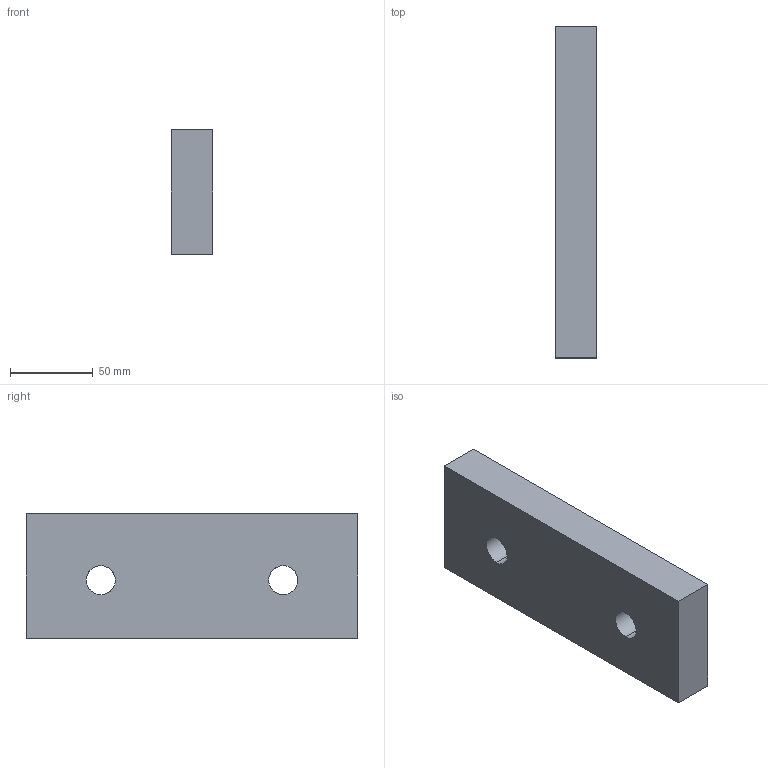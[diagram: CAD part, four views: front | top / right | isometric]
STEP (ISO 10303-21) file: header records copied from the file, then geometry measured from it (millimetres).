
FILE_DESCRIPTION(('CATIA V5 STEP Exchange'),'2;1');
FILE_NAME('C:\Users\Raffaele\Desktop\3D X SITO CF\A612\A611-075-200\A612-075-200.stp','2019-07-12T12:38:56+00:00',('none'),('none'),'CATIA Version 5 Release 20 GA (IN-10)','CATIA V5 STEP AP203','none');
FILE_SCHEMA(('CONFIG_CONTROL_DESIGN'));
Length unit declared in the file: millimetre
Products named in the file (1): A612-075-200
Bounding box: 25 x 200 x 75 mm (x, y, z)
Volume: 362973.6 mm3; surface area: 45536.8 mm2
Topology: 1 solids, 1 shells, 10 faces, 32 edges, 24 vertices
Faces by surface type: plane 6, cylinder 4
Entity records: 506 total; most frequent: CARTESIAN_POINT 179, ORIENTED_EDGE 64, DIRECTION 44, EDGE_CURVE 32, VERTEX_POINT 24, AXIS2_PLACEMENT_3D 19, VECTOR 16, LINE 16
